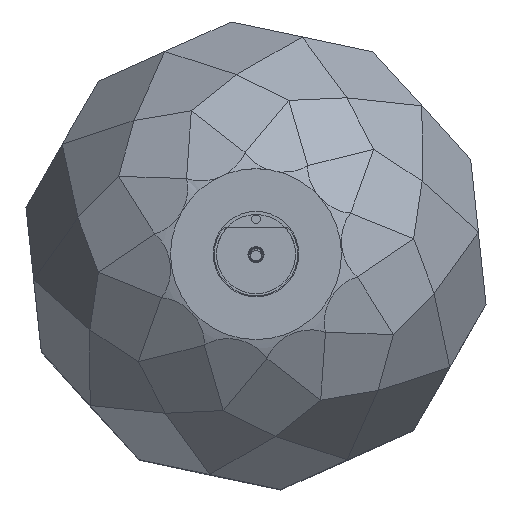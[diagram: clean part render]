
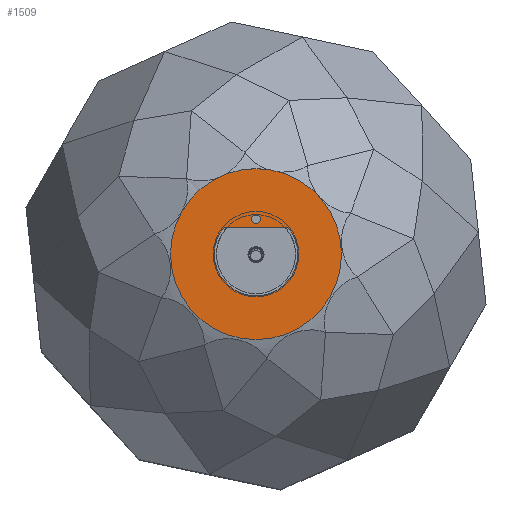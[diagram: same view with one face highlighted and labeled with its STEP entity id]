
A CAD part, top view. The second image highlights one B-rep face of the part: STEP entity #1509.
In plain terms, the highlighted planar face has unit normal (0, 0, 1).
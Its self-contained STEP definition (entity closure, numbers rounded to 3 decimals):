
#27=LINE('',#2244,#151);
#151=VECTOR('',#1826,10.);
#298=PLANE('',#1651);
#378=FACE_BOUND('',#539,.T.);
#379=FACE_BOUND('',#540,.T.);
#426=FACE_OUTER_BOUND('',#538,.T.);
#538=EDGE_LOOP('',(#1042));
#539=EDGE_LOOP('',(#1043));
#540=EDGE_LOOP('',(#1044,#1045));
#673=CIRCLE('',#1643,2.05);
#674=CIRCLE('',#1645,19.5);
#676=CIRCLE('',#1649,40.);
#723=VERTEX_POINT('',#2232);
#724=VERTEX_POINT('',#2235);
#725=VERTEX_POINT('',#2236);
#728=VERTEX_POINT('',#2247);
#841=EDGE_CURVE('',#723,#723,#673,.T.);
#842=EDGE_CURVE('',#724,#725,#674,.T.);
#846=EDGE_CURVE('',#725,#724,#27,.T.);
#848=EDGE_CURVE('',#728,#728,#676,.T.);
#1042=ORIENTED_EDGE('',*,*,#848,.F.);
#1043=ORIENTED_EDGE('',*,*,#841,.T.);
#1044=ORIENTED_EDGE('',*,*,#842,.T.);
#1045=ORIENTED_EDGE('',*,*,#846,.T.);
#1509=ADVANCED_FACE('',(#426,#378,#379),#298,.F.);
#1643=AXIS2_PLACEMENT_3D('',#2233,#1814,#1815);
#1645=AXIS2_PLACEMENT_3D('',#2237,#1818,#1819);
#1649=AXIS2_PLACEMENT_3D('',#2248,#1830,#1831);
#1651=AXIS2_PLACEMENT_3D('',#2251,#1834,#1835);
#1814=DIRECTION('center_axis',(0.,0.,
-1.));
#1815=DIRECTION('ref_axis',(-1.,0.,0.));
#1818=DIRECTION('center_axis',(0.,0.,
-1.));
#1819=DIRECTION('ref_axis',(0.768,-0.641,0.));
#1826=DIRECTION('',(1.,0.,0.));
#1830=DIRECTION('center_axis',(0.,0.,
-1.));
#1831=DIRECTION('ref_axis',(1.,0.,0.));
#1834=DIRECTION('center_axis',(0.,0.,
-1.));
#1835=DIRECTION('ref_axis',(1.,0.,0.));
#2232=CARTESIAN_POINT('',(-2.05,16.45,370.108));
#2233=CARTESIAN_POINT('Origin',(0.,16.45,370.108));
#2235=CARTESIAN_POINT('',(14.967,12.5,370.108));
#2236=CARTESIAN_POINT('',(-14.967,12.5,370.108));
#2237=CARTESIAN_POINT('Origin',(0.,0.,
370.108));
#2244=CARTESIAN_POINT('',(-7.483,12.5,370.108));
#2247=CARTESIAN_POINT('',(-40.,0.,370.108));
#2248=CARTESIAN_POINT('Origin',(0.,0.,
370.108));
#2251=CARTESIAN_POINT('Origin',(0.,0.,
370.108));
